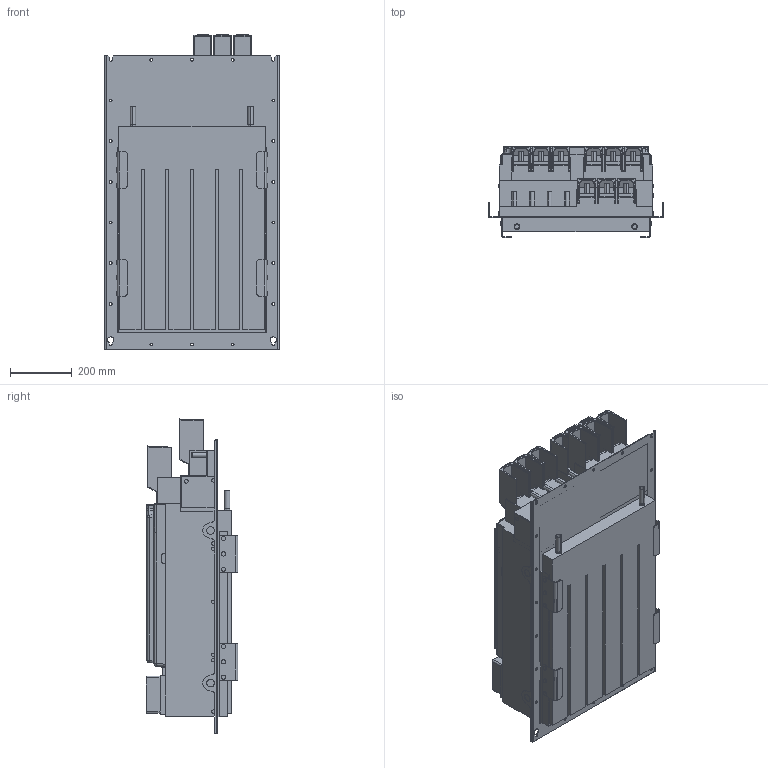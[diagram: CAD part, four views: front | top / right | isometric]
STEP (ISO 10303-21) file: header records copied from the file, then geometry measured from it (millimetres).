
FILE_DESCRIPTION (( 'STEP AP214' ), '1' );
FILE_NAME ('F6-9-TK5-P051.STEP', '2023-11-27T10:13:44', ( '' ), ( '' ), 'SwSTEP 2.0', 'SolidWorks 2022', '' );
FILE_SCHEMA (( 'AUTOMOTIVE_DESIGN' ));
Length unit declared in the file: millimetre
Products named in the file (12): Kundenmodell mit BW^10068280_000; 10059764_000_Blindabdeckung (Kundenmodell); 10049764_000_Kundenmodell; F6-9-TK5-P051; Kundenmodell^10049764_000; 10068280_000_Kundenmodell mit BW; 10051076_000_Kundenmodell; Kundenmodell^10054881_000; Kundenmodell^10051076_000_Kundenmodell mit Geberbuchsen; 10054881_000_Deckel (Kundenmodell); Kundenmodell^10059764_000; 10064843_000_Kundenmodell mit BW
Assembly tree (11 placements, depth 4):
  F6-9-TK5-P051
    10064843_000_Kundenmodell mit BW
      10068280_000_Kundenmodell mit BW
        Kundenmodell mit BW^10068280_000
    10049764_000_Kundenmodell
      Kundenmodell^10049764_000
    10051076_000_Kundenmodell
      10059764_000_Blindabdeckung (Kundenmodell)
        Kundenmodell^10059764_000
      Kundenmodell^10051076_000_Kundenmodell mit Geberbuchsen
    10054881_000_Deckel (Kundenmodell)
      Kundenmodell^10054881_000
Bounding box: 566 x 296.5 x 1024.88 mm (x, y, z)
Volume: 99028866.3 mm3; surface area: 4295306.6 mm2
Topology: 5 solids, 5 shells, 2713 faces, 7075 edges, 4428 vertices
Faces by surface type: plane 1265, cylinder 897, bspline 266, cone 120, sphere 92, torus 73
Entity records: 91317 total; most frequent: CARTESIAN_POINT 26316, ORIENTED_EDGE 13982, DIRECTION 12847, EDGE_CURVE 6991, VERTEX_POINT 4428, AXIS2_PLACEMENT_3D 4295, LINE 4257, VECTOR 4257
